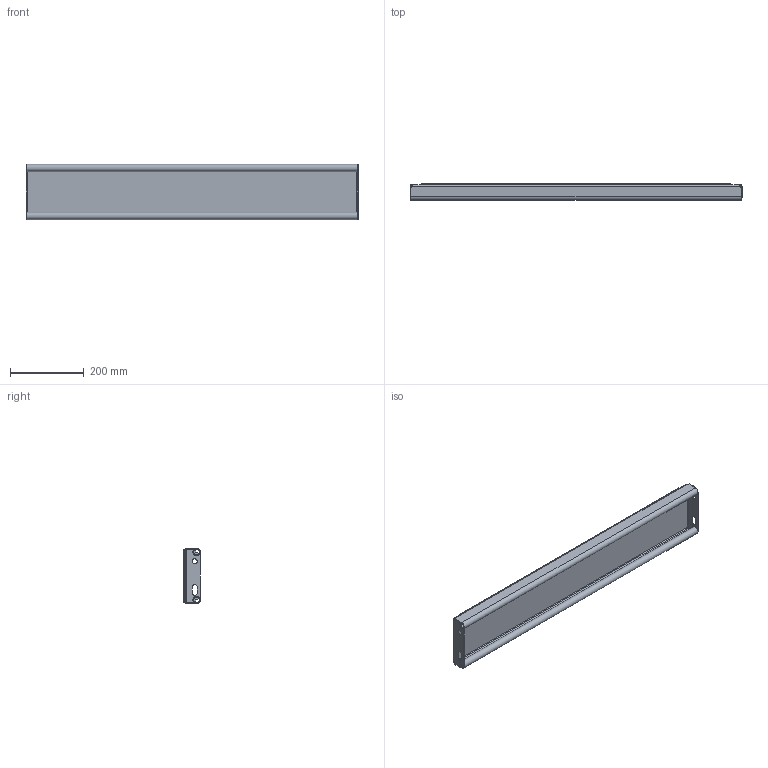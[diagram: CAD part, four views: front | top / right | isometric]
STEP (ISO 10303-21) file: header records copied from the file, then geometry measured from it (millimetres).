
FILE_DESCRIPTION (( 'STEP AP214' ), '1' );
FILE_NAME ('OPTIMO-Tread-Achil-O2-900x150x45x2-st240-F100050100-plain.STEP', '2021-03-15T09:25:35', ( '' ), ( '' ), 'SwSTEP 2.0', 'SolidWorks 2021', '' );
FILE_SCHEMA (( 'AUTOMOTIVE_DESIGN' ));
Length unit declared in the file: millimetre
Products named in the file (1): OPTIMO-Tread-Achil-O2-900x150x45x2-st240-F100050100-plain
Bounding box: 900 x 45 x 150 mm (x, y, z)
Volume: 924795 mm3; surface area: 578737 mm2
Topology: 1 solids, 1 shells, 247 faces, 637 edges, 410 vertices
Faces by surface type: plane 172, bspline 39, cylinder 36
Entity records: 9731 total; most frequent: CARTESIAN_POINT 3926, ORIENTED_EDGE 1274, DIRECTION 1017, EDGE_CURVE 637, VECTOR 487, LINE 487, VERTEX_POINT 410, EDGE_LOOP 273
